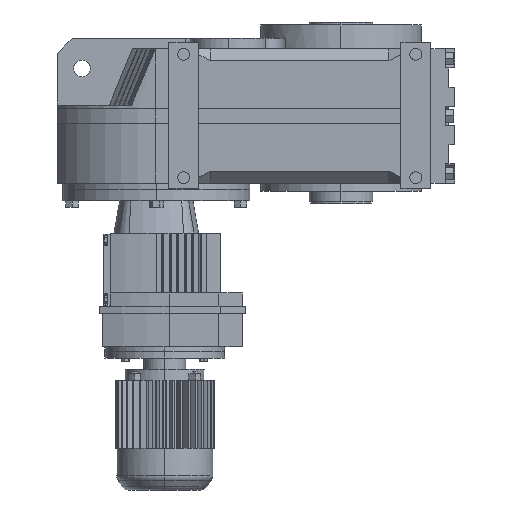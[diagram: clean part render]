
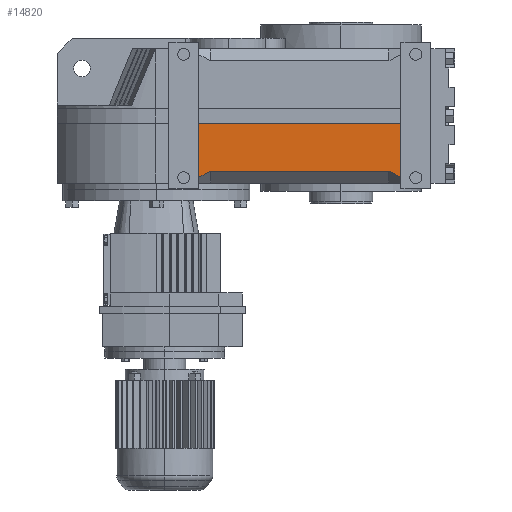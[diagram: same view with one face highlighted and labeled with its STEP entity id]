
A CAD part, left-side view. The second image highlights one B-rep face of the part: STEP entity #14820.
In plain terms, the highlighted planar face has unit normal (-1, 0, 0).
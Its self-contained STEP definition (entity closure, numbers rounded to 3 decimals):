
#2005 = PLANE('',#2006);
#2006 = AXIS2_PLACEMENT_3D('',#2007,#2008,#2009);
#2007 = CARTESIAN_POINT('',(-131.2,-56.7,1.));
#2008 = DIRECTION('',(0.,-1.,0.));
#2009 = DIRECTION('',(1.,0.,0.));
#2117 = PLANE('',#2118);
#2118 = AXIS2_PLACEMENT_3D('',#2119,#2120,#2121);
#2119 = CARTESIAN_POINT('',(-131.2,-326.7,1.));
#2120 = DIRECTION('',(0.,1.,0.));
#2121 = DIRECTION('',(0.,0.,1.));
#6976 = VERTEX_POINT('',#6977);
#6977 = CARTESIAN_POINT('',(-157.2,-56.7,16.564));
#6991 = PLANE('',#6992);
#6992 = AXIS2_PLACEMENT_3D('',#6993,#6994,#6995);
#6993 = CARTESIAN_POINT('',(-136.418,-56.7,-4.218));
#6994 = DIRECTION('',(0.664,0.342,0.664));
#6995 = DIRECTION('',(0.707,0.,-0.707));
#7003 = EDGE_CURVE('',#7004,#6976,#7006,.T.);
#7004 = VERTEX_POINT('',#7005);
#7005 = CARTESIAN_POINT('',(-157.2,-56.7,88.75));
#7006 = SURFACE_CURVE('',#7007,(#7011,#7018),.PCURVE_S1.);
#7007 = LINE('',#7008,#7009);
#7008 = CARTESIAN_POINT('',(-157.2,-56.7,188.2));
#7009 = VECTOR('',#7010,1.);
#7010 = DIRECTION('',(0.,0.,-1.));
#7011 = PCURVE('',#2005,#7012);
#7012 = DEFINITIONAL_REPRESENTATION('',(#7013),#7017);
#7013 = LINE('',#7014,#7015);
#7014 = CARTESIAN_POINT('',(-26.,187.2));
#7015 = VECTOR('',#7016,1.);
#7016 = DIRECTION('',(0.,-1.));
#7017 = ( GEOMETRIC_REPRESENTATION_CONTEXT(2) 
PARAMETRIC_REPRESENTATION_CONTEXT() REPRESENTATION_CONTEXT('2D SPACE',''
  ) );
#7018 = PCURVE('',#7019,#7024);
#7019 = PLANE('',#7020);
#7020 = AXIS2_PLACEMENT_3D('',#7021,#7022,#7023);
#7021 = CARTESIAN_POINT('',(-157.2,-398.7,188.2));
#7022 = DIRECTION('',(1.,0.,0.));
#7023 = DIRECTION('',(0.,0.,-1.));
#7024 = DEFINITIONAL_REPRESENTATION('',(#7025),#7029);
#7025 = LINE('',#7026,#7027);
#7026 = CARTESIAN_POINT('',(0.,342.));
#7027 = VECTOR('',#7028,1.);
#7028 = DIRECTION('',(1.,0.));
#7029 = ( GEOMETRIC_REPRESENTATION_CONTEXT(2) 
PARAMETRIC_REPRESENTATION_CONTEXT() REPRESENTATION_CONTEXT('2D SPACE',''
  ) );
#7047 = PLANE('',#7048);
#7048 = AXIS2_PLACEMENT_3D('',#7049,#7050,#7051);
#7049 = CARTESIAN_POINT('',(-11.809,1.,88.75));
#7050 = DIRECTION('',(0.,0.,-1.));
#7051 = DIRECTION('',(-1.,0.,0.));
#12165 = VERTEX_POINT('',#12166);
#12166 = CARTESIAN_POINT('',(-157.2,-326.7,88.75));
#12187 = EDGE_CURVE('',#12188,#12165,#12190,.T.);
#12188 = VERTEX_POINT('',#12189);
#12189 = CARTESIAN_POINT('',(-157.2,-326.7,16.564));
#12190 = SURFACE_CURVE('',#12191,(#12195,#12202),.PCURVE_S1.);
#12191 = LINE('',#12192,#12193);
#12192 = CARTESIAN_POINT('',(-157.2,-326.7,188.2));
#12193 = VECTOR('',#12194,1.);
#12194 = DIRECTION('',(0.,0.,1.));
#12195 = PCURVE('',#2117,#12196);
#12196 = DEFINITIONAL_REPRESENTATION('',(#12197),#12201);
#12197 = LINE('',#12198,#12199);
#12198 = CARTESIAN_POINT('',(187.2,-26.));
#12199 = VECTOR('',#12200,1.);
#12200 = DIRECTION('',(1.,0.));
#12201 = ( GEOMETRIC_REPRESENTATION_CONTEXT(2) 
PARAMETRIC_REPRESENTATION_CONTEXT() REPRESENTATION_CONTEXT('2D SPACE',''
  ) );
#12202 = PCURVE('',#7019,#12203);
#12203 = DEFINITIONAL_REPRESENTATION('',(#12204),#12208);
#12204 = LINE('',#12205,#12206);
#12205 = CARTESIAN_POINT('',(0.,72.));
#12206 = VECTOR('',#12207,1.);
#12207 = DIRECTION('',(-1.,0.));
#12208 = ( GEOMETRIC_REPRESENTATION_CONTEXT(2) 
PARAMETRIC_REPRESENTATION_CONTEXT() REPRESENTATION_CONTEXT('2D SPACE',''
  ) );
#12226 = PLANE('',#12227);
#12227 = AXIS2_PLACEMENT_3D('',#12228,#12229,#12230);
#12228 = CARTESIAN_POINT('',(-136.418,-326.7,-4.218));
#12229 = DIRECTION('',(0.664,-0.342,0.664));
#12230 = DIRECTION('',(0.707,0.,-0.707));
#13763 = EDGE_CURVE('',#12165,#7004,#13764,.T.);
#13764 = SURFACE_CURVE('',#13765,(#13769,#13776),.PCURVE_S1.);
#13765 = LINE('',#13766,#13767);
#13766 = CARTESIAN_POINT('',(-157.2,-398.7,88.75));
#13767 = VECTOR('',#13768,1.);
#13768 = DIRECTION('',(0.,1.,0.));
#13769 = PCURVE('',#7047,#13770);
#13770 = DEFINITIONAL_REPRESENTATION('',(#13771),#13775);
#13771 = LINE('',#13772,#13773);
#13772 = CARTESIAN_POINT('',(145.391,-399.7));
#13773 = VECTOR('',#13774,1.);
#13774 = DIRECTION('',(0.,1.));
#13775 = ( GEOMETRIC_REPRESENTATION_CONTEXT(2) 
PARAMETRIC_REPRESENTATION_CONTEXT() REPRESENTATION_CONTEXT('2D SPACE',''
  ) );
#13776 = PCURVE('',#7019,#13777);
#13777 = DEFINITIONAL_REPRESENTATION('',(#13778),#13782);
#13778 = LINE('',#13779,#13780);
#13779 = CARTESIAN_POINT('',(99.45,0.));
#13780 = VECTOR('',#13781,1.);
#13781 = DIRECTION('',(0.,1.));
#13782 = ( GEOMETRIC_REPRESENTATION_CONTEXT(2) 
PARAMETRIC_REPRESENTATION_CONTEXT() REPRESENTATION_CONTEXT('2D SPACE',''
  ) );
#14003 = VERTEX_POINT('',#14004);
#14004 = CARTESIAN_POINT('',(-157.2,-72.7,24.8));
#14018 = PLANE('',#14019);
#14019 = AXIS2_PLACEMENT_3D('',#14020,#14021,#14022);
#14020 = CARTESIAN_POINT('',(-157.2,-398.7,24.8));
#14021 = DIRECTION('',(0.707,0.,0.707));
#14022 = DIRECTION('',(0.707,0.,-0.707));
#14030 = EDGE_CURVE('',#6976,#14003,#14031,.T.);
#14031 = SURFACE_CURVE('',#14032,(#14036,#14043),.PCURVE_S1.);
#14032 = LINE('',#14033,#14034);
#14033 = CARTESIAN_POINT('',(-157.2,-396.909,191.68));
#14034 = VECTOR('',#14035,1.);
#14035 = DIRECTION('',(0.,-0.889,0.458));
#14036 = PCURVE('',#6991,#14037);
#14037 = DEFINITIONAL_REPRESENTATION('',(#14038),#14042);
#14038 = LINE('',#14039,#14040);
#14039 = CARTESIAN_POINT('',(-153.216,-362.042));
#14040 = VECTOR('',#14041,1.);
#14041 = DIRECTION('',(-0.324,-0.946));
#14042 = ( GEOMETRIC_REPRESENTATION_CONTEXT(2) 
PARAMETRIC_REPRESENTATION_CONTEXT() REPRESENTATION_CONTEXT('2D SPACE',''
  ) );
#14043 = PCURVE('',#7019,#14044);
#14044 = DEFINITIONAL_REPRESENTATION('',(#14045),#14049);
#14045 = LINE('',#14046,#14047);
#14046 = CARTESIAN_POINT('',(-3.48,1.791));
#14047 = VECTOR('',#14048,1.);
#14048 = DIRECTION('',(-0.458,-0.889));
#14049 = ( GEOMETRIC_REPRESENTATION_CONTEXT(2) 
PARAMETRIC_REPRESENTATION_CONTEXT() REPRESENTATION_CONTEXT('2D SPACE',''
  ) );
#14820 = ADVANCED_FACE('',(#14821),#7019,.F.);
#14821 = FACE_BOUND('',#14822,.T.);
#14822 = EDGE_LOOP('',(#14823,#14824,#14825,#14848,#14869,#14870));
#14823 = ORIENTED_EDGE('',*,*,#7003,.T.);
#14824 = ORIENTED_EDGE('',*,*,#14030,.T.);
#14825 = ORIENTED_EDGE('',*,*,#14826,.T.);
#14826 = EDGE_CURVE('',#14003,#14827,#14829,.T.);
#14827 = VERTEX_POINT('',#14828);
#14828 = CARTESIAN_POINT('',(-157.2,-310.7,24.8));
#14829 = SURFACE_CURVE('',#14830,(#14834,#14841),.PCURVE_S1.);
#14830 = LINE('',#14831,#14832);
#14831 = CARTESIAN_POINT('',(-157.2,-398.7,24.8));
#14832 = VECTOR('',#14833,1.);
#14833 = DIRECTION('',(0.,-1.,0.));
#14834 = PCURVE('',#7019,#14835);
#14835 = DEFINITIONAL_REPRESENTATION('',(#14836),#14840);
#14836 = LINE('',#14837,#14838);
#14837 = CARTESIAN_POINT('',(163.4,0.));
#14838 = VECTOR('',#14839,1.);
#14839 = DIRECTION('',(0.,-1.));
#14840 = ( GEOMETRIC_REPRESENTATION_CONTEXT(2) 
PARAMETRIC_REPRESENTATION_CONTEXT() REPRESENTATION_CONTEXT('2D SPACE',''
  ) );
#14841 = PCURVE('',#14018,#14842);
#14842 = DEFINITIONAL_REPRESENTATION('',(#14843),#14847);
#14843 = LINE('',#14844,#14845);
#14844 = CARTESIAN_POINT('',(0.,0.));
#14845 = VECTOR('',#14846,1.);
#14846 = DIRECTION('',(0.,-1.));
#14847 = ( GEOMETRIC_REPRESENTATION_CONTEXT(2) 
PARAMETRIC_REPRESENTATION_CONTEXT() REPRESENTATION_CONTEXT('2D SPACE',''
  ) );
#14848 = ORIENTED_EDGE('',*,*,#14849,.T.);
#14849 = EDGE_CURVE('',#14827,#12188,#14850,.T.);
#14850 = SURFACE_CURVE('',#14851,(#14855,#14862),.PCURVE_S1.);
#14851 = LINE('',#14852,#14853);
#14852 = CARTESIAN_POINT('',(-157.2,-313.777,23.216));
#14853 = VECTOR('',#14854,1.);
#14854 = DIRECTION('',(0.,-0.889,-0.458));
#14855 = PCURVE('',#7019,#14856);
#14856 = DEFINITIONAL_REPRESENTATION('',(#14857),#14861);
#14857 = LINE('',#14858,#14859);
#14858 = CARTESIAN_POINT('',(164.984,84.923));
#14859 = VECTOR('',#14860,1.);
#14860 = DIRECTION('',(0.458,-0.889));
#14861 = ( GEOMETRIC_REPRESENTATION_CONTEXT(2) 
PARAMETRIC_REPRESENTATION_CONTEXT() REPRESENTATION_CONTEXT('2D SPACE',''
  ) );
#14862 = PCURVE('',#12226,#14863);
#14863 = DEFINITIONAL_REPRESENTATION('',(#14864),#14868);
#14864 = LINE('',#14865,#14866);
#14865 = CARTESIAN_POINT('',(-34.094,13.752));
#14866 = VECTOR('',#14867,1.);
#14867 = DIRECTION('',(0.324,-0.946));
#14868 = ( GEOMETRIC_REPRESENTATION_CONTEXT(2) 
PARAMETRIC_REPRESENTATION_CONTEXT() REPRESENTATION_CONTEXT('2D SPACE',''
  ) );
#14869 = ORIENTED_EDGE('',*,*,#12187,.T.);
#14870 = ORIENTED_EDGE('',*,*,#13763,.T.);
